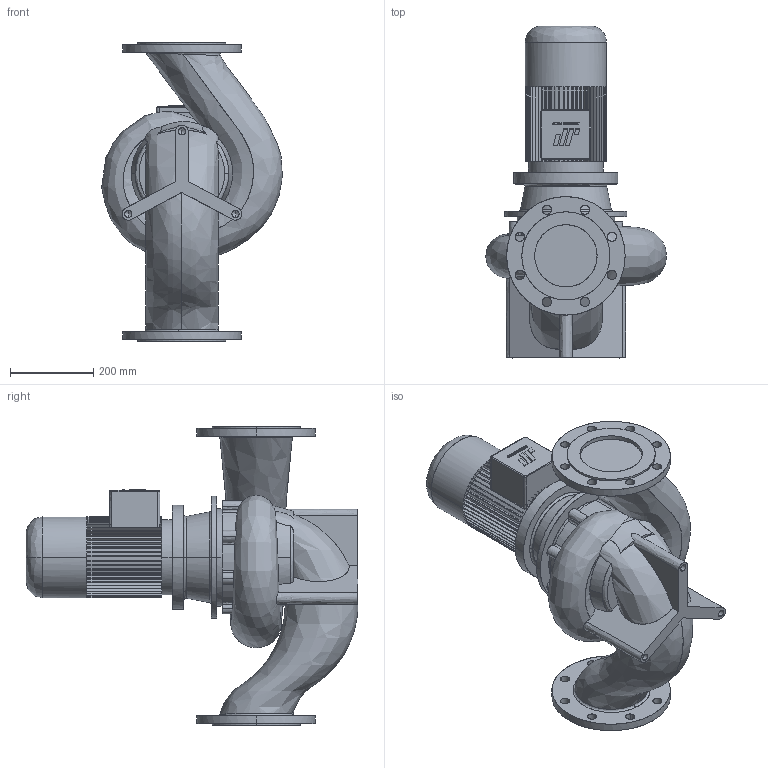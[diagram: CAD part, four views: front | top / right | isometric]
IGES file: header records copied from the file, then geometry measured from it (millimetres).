
Start section: CombiLine
Global section: file name: CLB_150-200_IEC100L_ND10.igs; native system:  By UGS Corp.; preprocessor: XPlus GENERIC/IGES 3.0; author: Stageplaats; organization: Johnson Pump Water B.V.; date: 20070717.142623; units: millimetre
Bounding box: 434.7 x 798.5 x 720 mm (x, y, z)
Surface area: 1611979.9 mm2 (no closed solid volume)
Topology: 0 solids, 0 shells, 687 faces, 3957 edges, 3951 vertices
Faces by surface type: bspline 687
